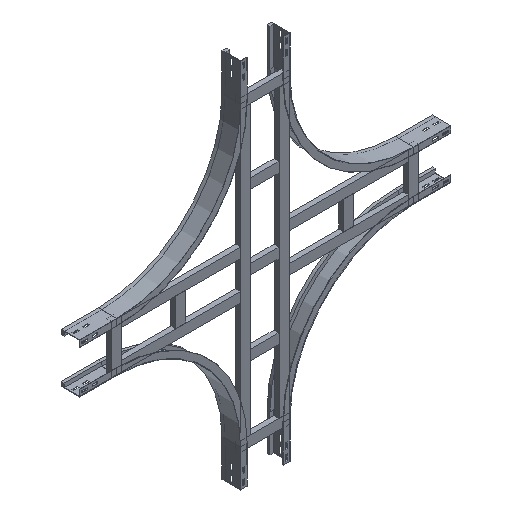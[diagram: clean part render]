
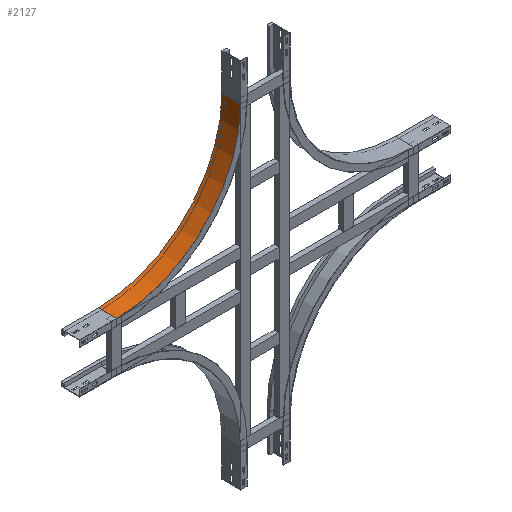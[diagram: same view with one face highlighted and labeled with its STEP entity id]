
A CAD part, isometric view. The second image highlights one B-rep face of the part: STEP entity #2127.
In plain terms, the highlighted cylindrical face has radius 500 mm (diameter 1000 mm), a partial arc.
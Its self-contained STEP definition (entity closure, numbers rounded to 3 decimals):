
#100 = EDGE_CURVE ( 'NONE', #2094, #2750, #2605, .T. ) ;
#126 = CYLINDRICAL_SURFACE ( 'NONE', #2320, 500. ) ;
#141 = DIRECTION ( 'NONE',  ( 0., -1., 0. ) ) ;
#157 = CARTESIAN_POINT ( 'NONE',  ( 500., 0., -150. ) ) ;
#306 = VERTEX_POINT ( 'NONE', #1861 ) ;
#404 = DIRECTION ( 'NONE',  ( -1., 0., 0. ) ) ;
#424 = DIRECTION ( 'NONE',  ( -1., 0., 0. ) ) ;
#542 = ORIENTED_EDGE ( 'NONE', *, *, #100, .T. ) ;
#642 = VECTOR ( 'NONE', #2164, 1000. ) ;
#752 = DIRECTION ( 'NONE',  ( 0., -1., 0. ) ) ;
#783 = CARTESIAN_POINT ( 'NONE',  ( 500., 0., -650. ) ) ;
#874 = ORIENTED_EDGE ( 'NONE', *, *, #1739, .F. ) ;
#1012 = CARTESIAN_POINT ( 'NONE',  ( 500., 0., -150. ) ) ;
#1090 = CARTESIAN_POINT ( 'NONE',  ( 500., 75., -150. ) ) ;
#1220 = EDGE_CURVE ( 'NONE', #1894, #2094, #1700, .T. ) ;
#1278 = CARTESIAN_POINT ( 'NONE',  ( 500., 75., -650. ) ) ;
#1283 = DIRECTION ( 'NONE',  ( 0., 1., 0. ) ) ;
#1593 = EDGE_CURVE ( 'NONE', #1894, #306, #1735, .T. ) ;
#1643 = FACE_OUTER_BOUND ( 'NONE', #2766, .T. ) ;
#1700 = CIRCLE ( 'NONE', #2087, 500. ) ;
#1735 = LINE ( 'NONE', #2878, #2044 ) ;
#1739 = EDGE_CURVE ( 'NONE', #306, #2750, #2500, .T. ) ;
#1861 = CARTESIAN_POINT ( 'NONE',  ( 0., 75., -150. ) ) ;
#1894 = VERTEX_POINT ( 'NONE', #2521 ) ;
#1955 = CARTESIAN_POINT ( 'NONE',  ( 500., 0., -650. ) ) ;
#2044 = VECTOR ( 'NONE', #1283, 1000. ) ;
#2087 = AXIS2_PLACEMENT_3D ( 'NONE', #157, #141, #404 ) ;
#2094 = VERTEX_POINT ( 'NONE', #783 ) ;
#2127 = ADVANCED_FACE ( 'NONE', ( #1643 ), #126, .F. ) ;
#2164 = DIRECTION ( 'NONE',  ( 0., 1., 0. ) ) ;
#2320 = AXIS2_PLACEMENT_3D ( 'NONE', #1012, #752, #2559 ) ;
#2500 = CIRCLE ( 'NONE', #2562, 500. ) ;
#2518 = ORIENTED_EDGE ( 'NONE', *, *, #1593, .F. ) ;
#2521 = CARTESIAN_POINT ( 'NONE',  ( 0., 0., -150. ) ) ;
#2559 = DIRECTION ( 'NONE',  ( 0., 0., -1. ) ) ;
#2562 = AXIS2_PLACEMENT_3D ( 'NONE', #1090, #2902, #424 ) ;
#2605 = LINE ( 'NONE', #1955, #642 ) ;
#2663 = ORIENTED_EDGE ( 'NONE', *, *, #1220, .T. ) ;
#2750 = VERTEX_POINT ( 'NONE', #1278 ) ;
#2766 = EDGE_LOOP ( 'NONE', ( #874, #2518, #2663, #542 ) ) ;
#2878 = CARTESIAN_POINT ( 'NONE',  ( 0., 0., -150. ) ) ;
#2902 = DIRECTION ( 'NONE',  ( 0., -1., 0. ) ) ;
